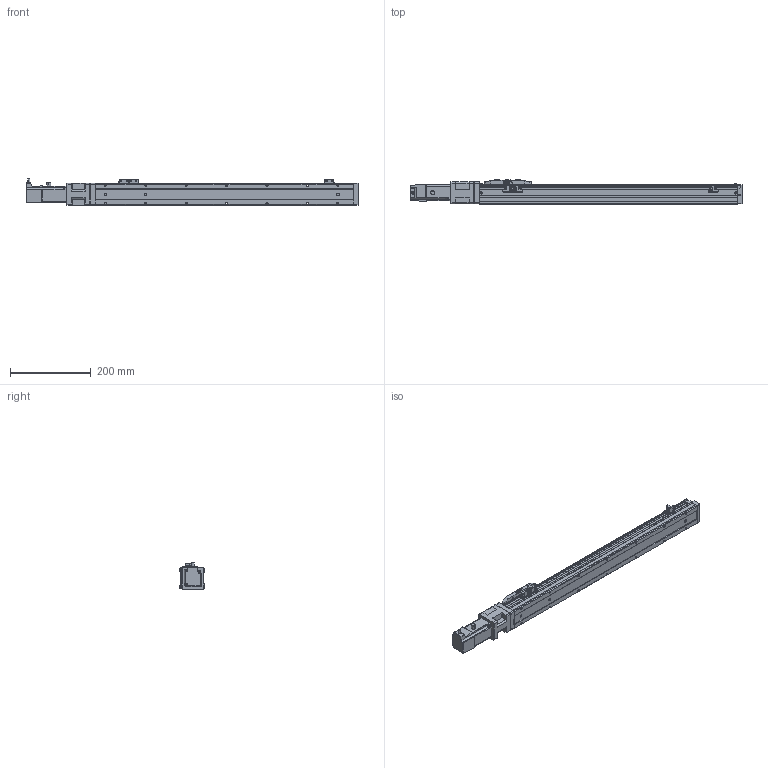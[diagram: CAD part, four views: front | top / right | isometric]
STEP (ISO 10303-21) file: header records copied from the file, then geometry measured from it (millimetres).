
FILE_DESCRIPTION (( 'STEP AP203' ), '1' );
FILE_NAME ('CTH5-L10-S500-BC-C10(¼ò).STEP', '2023-02-04T02:08:03', ( '' ), ( '' ), 'SwSTEP 2.0', 'SolidWorks 2018', '' );
FILE_SCHEMA (( 'CONFIG_CONTROL_DESIGN' ));
Length unit declared in the file: millimetre
Products named in the file (21): T10-p1; CTH5賑怢; CTH嫖萇羲壽假蚾啣; CTH5耜晚蹟隊-1; CTH5綴耜啣; M3; CTH5萇儂釱; M3｡｣; CTH5覜茼え; PM-Y45; 100W萇儂; 嫖萇羲壽郪磁1; 内六角圆柱头螺钉M3-2; CTH5-L10-S500-BC-C10(潠); CTH5菁釱-L640; 葩璃 蚾饜极13^CTH8-L10-S50-BM-C40(潠)1; CTH5耜晚蹟隊; CTH5-BC-03; hex nuts, style 1-grades ab gb_GB_FASTENER_NUT_SNAB1 M3-N; CTH5ヶ耜啣(潠); CTH5萇儂釱欶
Assembly tree (37 placements, depth 3):
  CTH5-L10-S500-BC-C10(潠)
    CTH5綴耜啣
    CTH5賑怢
    CTH5ヶ耜啣(潠)
    CTH5菁釱-L640
    CTH5耜晚蹟隊  x2
    CTH5萇儂釱
      CTH5-BC-03
    CTH5萇儂釱欶
    100W萇儂
      T10-p1
    嫖萇羲壽郪磁1  x2
      CTH嫖萇羲壽假蚾啣
      PM-Y45
      M3｡｣
      内六角圆柱头螺钉M3-2
      hex nuts, style 1-grades ab gb_GB_FASTENER_NUT_SNAB1 M3-N
    CTH5覜茼え
    葩璃 蚾饜极13^CTH8-L10-S50-BM-C40(潠)1
      CTH嫖萇羲壽假蚾啣
      PM-Y45
      内六角圆柱头螺钉M3-2  x2
      M3｡｣  x2
      hex nuts, style 1-grades ab gb_GB_FASTENER_NUT_SNAB1 M3-N  x2
    M3  x2
    CTH5耜晚蹟隊-1  x4
Bounding box: 821.1 x 60 x 65.7 mm (x, y, z)
Volume: 1716091 mm3; surface area: 251423.4 mm2
Topology: 40 solids, 40 shells, 1527 faces, 3812 edges, 2458 vertices
Faces by surface type: plane 848, cylinder 442, cone 175, torus 44, bspline 18
Entity records: 34245 total; most frequent: CARTESIAN_POINT 6284, DIRECTION 5408, ORIENTED_EDGE 5172, EDGE_CURVE 2586, AXIS2_PLACEMENT_3D 1865, VECTOR 1678, LINE 1678, VERTEX_POINT 1664
